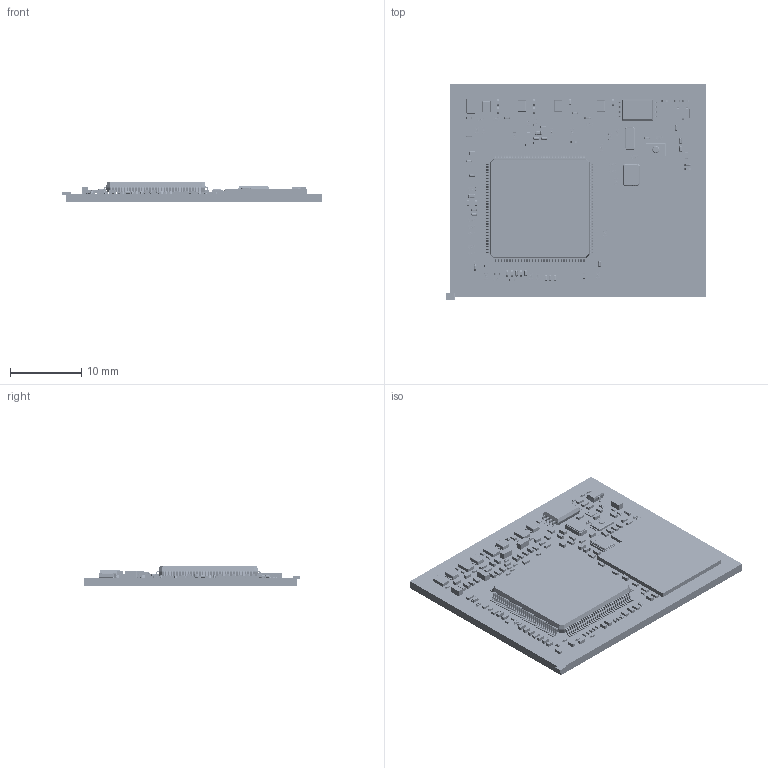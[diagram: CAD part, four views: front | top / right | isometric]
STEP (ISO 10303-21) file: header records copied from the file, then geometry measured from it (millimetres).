
FILE_DESCRIPTION(/* description */ ('PCB Design'),/* implementation_level */ '2;1');
FILE_NAME(/* name */ 'CMT113-S3 V2',/* time_stamp */ '2026-08-12T18:56:05+08:00',/* author */ (''),/* organization */ (''),/* preprocessor_version */ 'ST-DEVELOPER v16',/* originating_system */ 'allegro_17.2S053',/* authorisation */ '');
FILE_SCHEMA (('AUTOMOTIVE_DESIGN { 1 0 10303 214 3 1 1 }'));
Length unit declared in the file: millimetre
Products named in the file (58): CMT113-S3 V2; BOARD_OUTLINE; COMPONENTS; DFN1X1-4L; TP30; CMT113S3_122P_P1R0_36X30; LED0402; IND1R2X2MM; BUT3X2; ESD0402; C0201; DFN8_5X6; TSSOP8_3R10X3R10X1R10; CLIP-EMI; ELQFP128_14X14X1R4; SOT_323; R0402; XTAL2-3P2X1P5-SM; FB0402; C0603; C0402; CRY4_3R20X2R50X0R80; BGA153_13RX11R5X0R9_2L; SOT563; 3E59452F-ABFF-48A1-AF72-A9F3936F8A65; 850DC0C3-6D9A-4967-BBF5-B59CDC60A983; Assem1; core; Pad; xb-ts-2030-2-x; User Library-RES_SMD-1; User Library-User Library-0201_Cap; User Library-DFN8-5X6; Pad005; Pad007; Pad008; Pad003; Pad004; Pad001; Pad002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
Assembly tree (193 placements, depth 5):
  CMT113-S3 V2
    BOARD_OUTLINE
    COMPONENTS
      DFN1X1-4L
        3E59452F-ABFF-48A1-AF72-A9F3936F8A65
      TP30  x4
      CMT113S3_122P_P1R0_36X30
      LED0402
        850DC0C3-6D9A-4967-BBF5-B59CDC60A983
      IND1R2X2MM  x4
        Assem1
      BUT3X2
        xb-ts-2030-2-x
      ESD0402
        User Library-RES_SMD-1
      C0201  x45
        User Library-User Library-0201_Cap
      DFN8_5X6
        User Library-DFN8-5X6
          Pad001
          Pad002
          Pad
          Pad009
          Pad003
          Pad005
          Pad004
          Pad006
          Pad007
          Pad008
      TSSOP8_3R10X3R10X1R10
        4E4B9721-5512-4EAC-BC09-40BE9565364F
      CLIP-EMI  x8
      ELQFP128_14X14X1R4
        78840AE5-5C64-429A-AB0D-AE8FD6102EB3
      SOT_323
        PTSP0003JA-A
      R0402  x42
        0
        CR1005-04021
      XTAL2-3P2X1P5-SM
        0637D9F9-BE46-411F-B9CE-197B637E80A1
      FB0402  x5
        User Library-INDC1005X___
      C0603  x5
        0
        C0603-1
      C0402  x30
        0
        SC0402
      CRY4_3R20X2R50X0R80
        0
        3225-1
      BGA153_13RX11R5X0R9_2L
        58673B8F-7CB6-4A58-80C6-4C79EC9FD135
      SOT563  x4
        4E357751-62F2-4C9E-89FE-D179AAC9DFAF
  core
  Pad
Bounding box: 36.62 x 30.5 x 2.77 mm (x, y, z)
Volume: 470.1 mm3; surface area: 6629.4 mm2
Topology: 799 solids, 933 shells, 24742 faces, 61316 edges, 39392 vertices
Faces by surface type: bspline 12989, plane 8291, cylinder 2320, sphere 1082, torus 60
Entity records: 161324 total; most frequent: CARTESIAN_POINT 34474, ORIENTED_EDGE 23019, DIRECTION 21239, EDGE_CURVE 11518, VECTOR 8036, LINE 8036, VERTEX_POINT 7695, AXIS2_PLACEMENT_3D 6829
